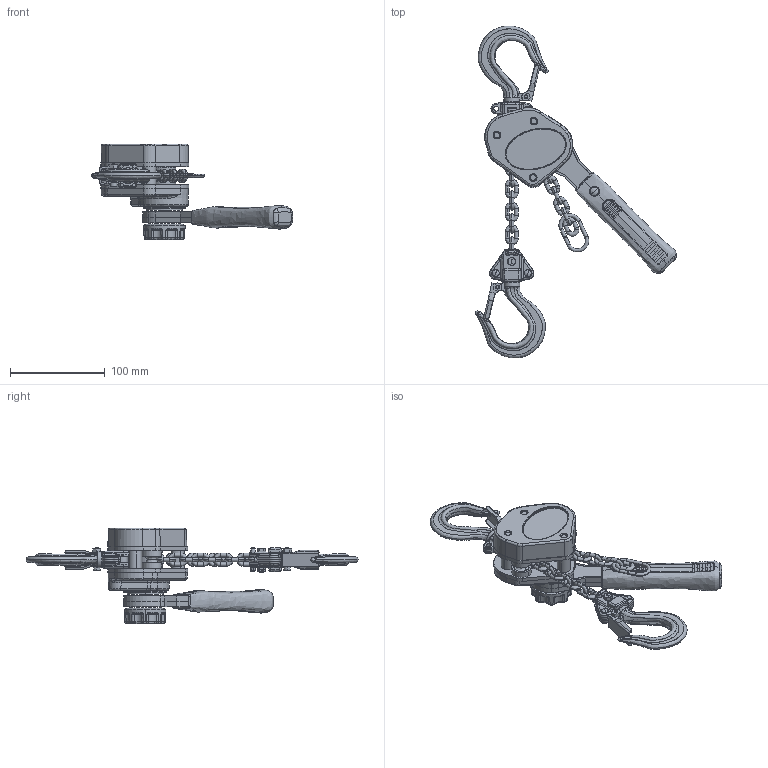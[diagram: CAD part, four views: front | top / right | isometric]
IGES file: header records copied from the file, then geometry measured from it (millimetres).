
Start section: SolidWorks IGES file using analytic representation for surfaces
Global section: file name: \\KITO-SHARE02\CAD_Standard_Design\3Dデータ\LX\L1XA005\提出データ\L1XA005.IGS; native system: SolidWorks 2010; preprocessor: SolidWorks 2010; author: h-mitsui; date: 141105.115612; units: metre
Bounding box: 212.79 x 351.18 x 101.5 mm (x, y, z)
Surface area: 110093.8 mm2 (no closed solid volume)
Topology: 0 solids, 0 shells, 1336 faces, 15781 edges, 15735 vertices
Faces by surface type: bspline 883, revolution 453
